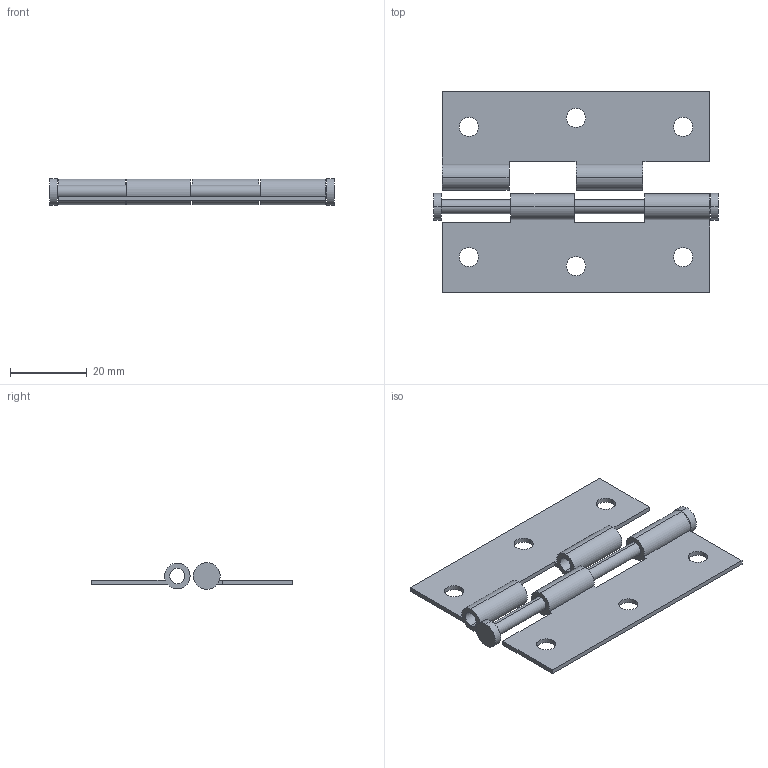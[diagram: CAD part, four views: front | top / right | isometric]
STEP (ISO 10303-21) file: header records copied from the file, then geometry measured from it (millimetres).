
FILE_DESCRIPTION (( 'STEP AP203' ), '1' );
FILE_NAME ('Door Hinge.STEP', '2025-02-17T07:15:05', ( '' ), ( '' ), 'SwSTEP 2.0', 'SolidWorks 2018', '' );
FILE_SCHEMA (( 'CONFIG_CONTROL_DESIGN' ));
Length unit declared in the file: millimetre
Products named in the file (1): Door Hinge
Bounding box: 74.4 x 52.7 x 7 mm (x, y, z)
Volume: 5475.9 mm3; surface area: 8965.7 mm2
Topology: 3 solids, 3 shells, 62 faces, 162 edges, 108 vertices
Faces by surface type: cylinder 38, plane 24
Entity records: 2055 total; most frequent: DIRECTION 364, CARTESIAN_POINT 333, ORIENTED_EDGE 324, EDGE_CURVE 162, AXIS2_PLACEMENT_3D 139, VERTEX_POINT 108, LINE 86, VECTOR 86
